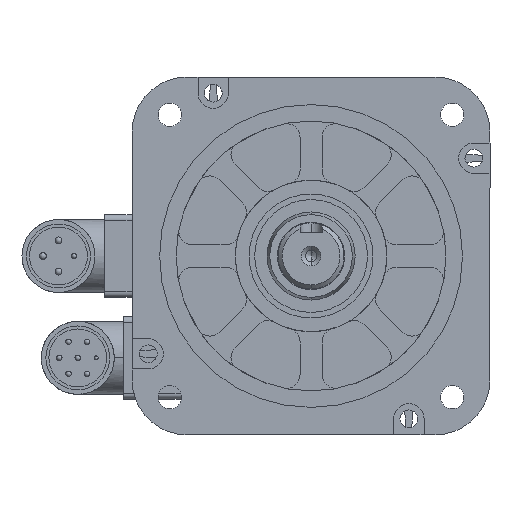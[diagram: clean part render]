
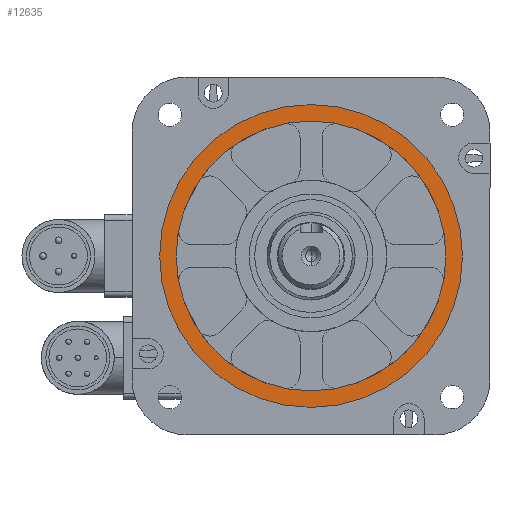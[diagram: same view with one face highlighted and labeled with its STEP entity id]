
A CAD part, left-side view. The second image highlights one B-rep face of the part: STEP entity #12635.
In plain terms, the highlighted planar face has unit normal (-1, 0, 0).
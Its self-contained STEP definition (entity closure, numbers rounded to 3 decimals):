
#369 = CARTESIAN_POINT ( 'NONE',  ( -6., 0., -55. ) ) ;
#943 = DIRECTION ( 'NONE',  ( -1., 0., 0. ) ) ;
#1075 = AXIS2_PLACEMENT_3D ( 'NONE', #15475, #3112, #17560 ) ;
#3112 = DIRECTION ( 'NONE',  ( 1., 0., 0. ) ) ;
#3286 = DIRECTION ( 'NONE',  ( -1., 0., 0. ) ) ;
#3387 = CARTESIAN_POINT ( 'NONE',  ( -6., 0., 0. ) ) ;
#3809 = EDGE_CURVE ( 'NONE', #13577, #21359, #26441, .T. ) ;
#4400 = AXIS2_PLACEMENT_3D ( 'NONE', #3387, #17825, #5449 ) ;
#4420 = FACE_BOUND ( 'NONE', #5042, .T. ) ;
#4498 = EDGE_CURVE ( 'NONE', #21359, #13577, #26733, .T. ) ;
#5042 = EDGE_LOOP ( 'NONE', ( #6591, #12143 ) ) ;
#5449 = DIRECTION ( 'NONE',  ( 0., 0., -1. ) ) ;
#6591 = ORIENTED_EDGE ( 'NONE', *, *, #3809, .F. ) ;
#6886 = DIRECTION ( 'NONE',  ( 1., 0., 0. ) ) ;
#11775 = AXIS2_PLACEMENT_3D ( 'NONE', #19278, #6886, #21340 ) ;
#11965 = CARTESIAN_POINT ( 'NONE',  ( -6., 0., 49. ) ) ;
#12143 = ORIENTED_EDGE ( 'NONE', *, *, #4498, .F. ) ;
#12635 = ADVANCED_FACE ( 'NONE', ( #4420, #20248 ), #25753, .F. ) ;
#13305 = CARTESIAN_POINT ( 'NONE',  ( -6., 0., 0. ) ) ;
#13577 = VERTEX_POINT ( 'NONE', #11965 ) ;
#15327 = VERTEX_POINT ( 'NONE', #369 ) ;
#15381 = DIRECTION ( 'NONE',  ( 0., 0., 1. ) ) ;
#15475 = CARTESIAN_POINT ( 'NONE',  ( -6., 0., 0. ) ) ;
#15623 = CIRCLE ( 'NONE', #11775, 55. ) ;
#15646 = CARTESIAN_POINT ( 'NONE',  ( -6., 0., 0. ) ) ;
#15877 = CIRCLE ( 'NONE', #4400, 55. ) ;
#16659 = VERTEX_POINT ( 'NONE', #17131 ) ;
#16866 = ORIENTED_EDGE ( 'NONE', *, *, #23652, .F. ) ;
#17131 = CARTESIAN_POINT ( 'NONE',  ( -6., 0., 55. ) ) ;
#17560 = DIRECTION ( 'NONE',  ( 0., 0., -1. ) ) ;
#17734 = DIRECTION ( 'NONE',  ( 0., 0., 1. ) ) ;
#17825 = DIRECTION ( 'NONE',  ( 1., 0., 0. ) ) ;
#18629 = AXIS2_PLACEMENT_3D ( 'NONE', #15646, #3286, #17734 ) ;
#19278 = CARTESIAN_POINT ( 'NONE',  ( -6., 0., 0. ) ) ;
#20248 = FACE_OUTER_BOUND ( 'NONE', #23060, .T. ) ;
#21190 = CARTESIAN_POINT ( 'NONE',  ( -6., 0., -49. ) ) ;
#21340 = DIRECTION ( 'NONE',  ( 0., 0., -1. ) ) ;
#21359 = VERTEX_POINT ( 'NONE', #21190 ) ;
#21973 = EDGE_CURVE ( 'NONE', #16659, #15327, #15623, .T. ) ;
#22891 = AXIS2_PLACEMENT_3D ( 'NONE', #13305, #943, #15381 ) ;
#23060 = EDGE_LOOP ( 'NONE', ( #23922, #16866 ) ) ;
#23652 = EDGE_CURVE ( 'NONE', #15327, #16659, #15877, .T. ) ;
#23922 = ORIENTED_EDGE ( 'NONE', *, *, #21973, .F. ) ;
#25753 = PLANE ( 'NONE',  #1075 ) ;
#26441 = CIRCLE ( 'NONE', #22891, 49. ) ;
#26733 = CIRCLE ( 'NONE', #18629, 49. ) ;
